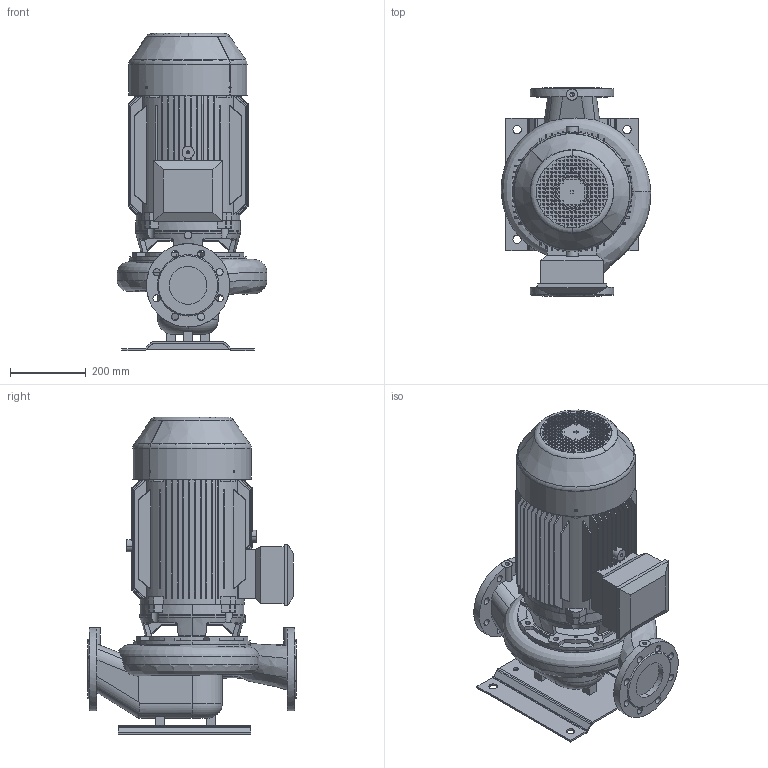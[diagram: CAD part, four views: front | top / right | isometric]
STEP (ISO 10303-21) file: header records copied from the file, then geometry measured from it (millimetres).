
FILE_DESCRIPTION(('STEP AP214'),'1');
FILE_NAME('export.stp','2018-05-28T09:50:46',(' '),(' '),'Spatial InterOp 3D',' ',' ');
FILE_SCHEMA(('AUTOMOTIVE_DESIGN { 1 0 10303 214 1 1 1 1 }'));
Length unit declared in the file: millimetre
Products named in the file (11): W_AKN1002180KP166; V_TLAKN100127; V_PPAKN100; P100496; P100495; P100342; V_MKP-166-H1_N26; R200574; R200587; R201257; R200960
Assembly tree (11 placements, depth 3):
  W_AKN1002180KP166
    V_TLAKN100127
    V_PPAKN100
    P100496
      P100495  x2
      P100342
    V_MKP-166-H1_N26
      R200574
      R200587
      R201257
      R200960
Bounding box: 395.17 x 550 x 838 mm (x, y, z)
Volume: 25772076.1 mm3; surface area: 3343073.9 mm2
Topology: 9 solids, 9 shells, 1782 faces, 5183 edges, 3430 vertices
Faces by surface type: plane 1196, cylinder 316, cone 158, torus 72, bspline 40
Entity records: 82337 total; most frequent: CARTESIAN_POINT 18309, ORIENTED_EDGE 10322, DIRECTION 8920, EDGE_CURVE 5161, LINE 3426, VECTOR 3426, VERTEX_POINT 3422, AXIS2_PLACEMENT_3D 2747
